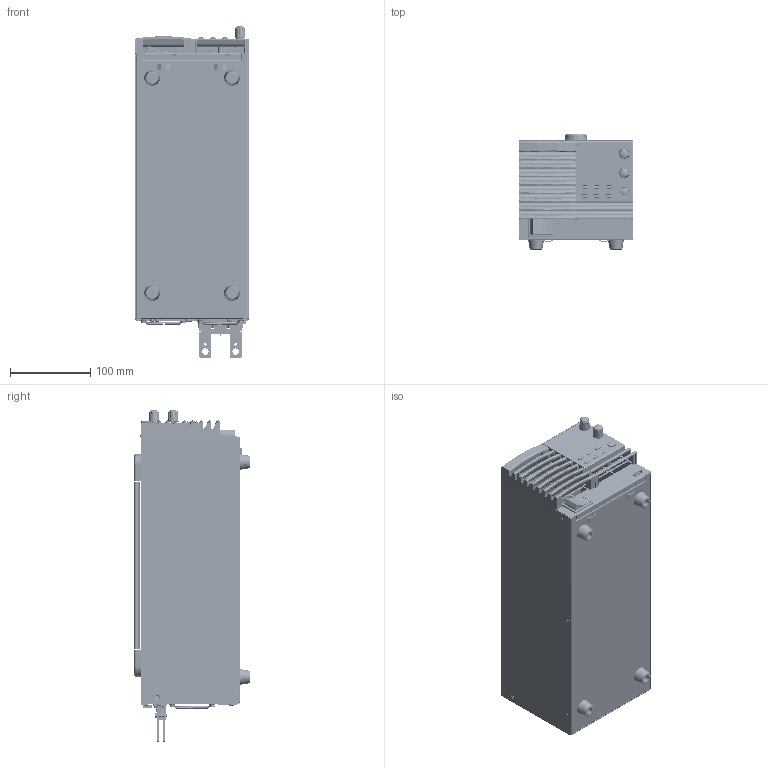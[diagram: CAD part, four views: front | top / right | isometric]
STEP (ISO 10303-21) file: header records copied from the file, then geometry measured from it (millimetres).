
FILE_DESCRIPTION((''),'2;1');
FILE_NAME('PSW-TWO_ASM_ASM_ASM','2019-03-25T14:38:38',('jeffery_kuo'),(''),'CREO PARAMETRIC BY PTC INC, 2018100','CREO PARAMETRIC BY PTC INC, 2018100','');
FILE_SCHEMA(('CONFIG_CONTROL_DESIGN'));
Products named in the file (84): PSW_ASM_SKEL_231_1; 63FP-AG107501_391_1; INSERT-CU_10_1; 63FP-AG107501_ASM_46_1_ASM; PSW-F-PCB_107_1; TACT_SWITCH_TC002_8_1; DISPLAY_14_1; ENCODE_SW_L25-ALPS_8_1; LED-6X4_DIP_5_1; BOARD-IN-CONNECTOR-8PIN_17_1; PSW-F-PCB_ASM_ASM_102_1_ASM; 63KE-XG2001A1_268_1; 5005-130G0101_32_1; 51SW-30080101_96_1; PSW-F1_ASM_ASM_478_1_ASM; 63FP-AG1076A1_85; PSW-F2_ASM_ASM_56_ASM; 62SW-720FP1A1_333; 62SW-720FP1A1_ASM_12_ASM; POWER_SW_AJ8R1013_28_1; PSW-FP2_ASM_ASM_35_ASM; 62SW-720LO1A1_261; BSO-M3X55_10_1; FH-M4-15_3; 62SW-720LO1A1_ASM_88_ASM; PSW-MAINPCB2_195; 3P-AC-INLET_3_1; USB2_7_1; RJ-45_16_1; PSW-MAINPCB2_ASM_ASM_87_ASM; BMS-LOCK-3X4_9_1; 57FC-10B0100_GL-4L-B_3_1; BOX-TYPE-PLUGS-26PIN_1_1; DOUBLE-ROW-SOCKETS_ASM_ASM_1_1_ASM; USB_7_1; 62SW-080HP501_20_1; PSW-ANALOG-DIGITAL-PCB_ASM_AS_1_ASM; 62SW-080HP501_20; PSW-ANALOG-DIGITAL-PCB_ASM-1_AS_ASM; PSW-LO2_ASM_ASM_150_ASM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
Assembly tree (182 placements, depth 6):
  PSW-TWO_ASM_ASM_ASM
    PSW-TWO_ASM_ASM_812_ASM
      PSW_ASM_SKEL_231_1
      PSW-F1_ASM_ASM_478_1_ASM
        63FP-AG107501_ASM_46_1_ASM
          63FP-AG107501_391_1
          INSERT-CU_10_1  x2
        PSW-F-PCB_ASM_ASM_102_1_ASM
          PSW-F-PCB_107_1
          TACT_SWITCH_TC002_8_1  x7
          DISPLAY_14_1  x8
          ENCODE_SW_L25-ALPS_8_1  x2
          LED-6X4_DIP_5_1  x17
          BOARD-IN-CONNECTOR-8PIN_17_1
        63KE-XG2001A1_268_1
        5005-130G0101_32_1  x2
        51SW-30080101_96_1
      PSW-F2_ASM_ASM_56_ASM
        63FP-AG1076A1_85
      PSW-FP2_ASM_ASM_35_ASM
        62SW-720FP1A1_ASM_12_ASM
          62SW-720FP1A1_333
        POWER_SW_AJ8R1013_28_1
      PSW-LO2_ASM_ASM_150_ASM
        62SW-720LO1A1_ASM_88_ASM
          62SW-720LO1A1_261
          BSO-M3X55_10_1  x12
          FH-M4-15_3
        PSW-MAINPCB2_ASM_ASM_87_ASM
          PSW-MAINPCB2_195
          3P-AC-INLET_3_1
          USB2_7_1
          RJ-45_16_1
        BMS-LOCK-3X4_9_1  x12
        57FC-10B0100_GL-4L-B_3_1  x4
        PSW-ANALOG-DIGITAL-PCB_ASM_AS_1_ASM
          DOUBLE-ROW-SOCKETS_ASM_ASM_1_1_ASM
            BOX-TYPE-PLUGS-26PIN_1_1
          USB_7_1
          62SW-080HP501_20_1
        PSW-ANALOG-DIGITAL-PCB_ASM-1_AS_ASM
          62SW-080HP501_20
      PSW-RP2_ASM_ASM_48_ASM
        62SW-720RP101_ASM_18_ASM
          62SW-720RP101_124
        PBT_ASM_ASM_52_1_ASM
          57IL-20G00101_ASM_7_1_ASM
            57IL-20G00101_5_1
          62SW-080CP101_74_1
          62SW-080CP201_107_1
        FAN-60X60-25_26_1_2_ASM  x2
          FAN-60X60-25_26_1_2_1
          FAN-60X60-25_26_1_2_2
        FAN-NET-60-60_2_1_2_ASM  x2
          FAN-NET-60-60_2_1_2_1
          FAN-NET-60-60_2_1_2_2
          FAN-NET-60-60_2_1_2_3
          FAN-NET-60-60_2_1_2_4
          FAN-NET-60-60_2_1_2_5
          FAN-NET-60-60_2_1_2_6
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Bounding box: 141.8 x 144.2 x 413.8 mm (x, y, z)
Volume: 509458.5 mm3; surface area: 747885.6 mm2
Topology: 161 solids, 163 shells, 10309 faces, 26793 edges, 17202 vertices
Faces by surface type: plane 6636, cylinder 2117, cone 667, bspline 551, torus 198, sphere 140
Entity records: 223549 total; most frequent: CARTESIAN_POINT 63928, ORIENTED_EDGE 33293, DIRECTION 32151, EDGE_CURVE 16671, VECTOR 11233, LINE 11233, VERTEX_POINT 10641, AXIS2_PLACEMENT_3D 10459
